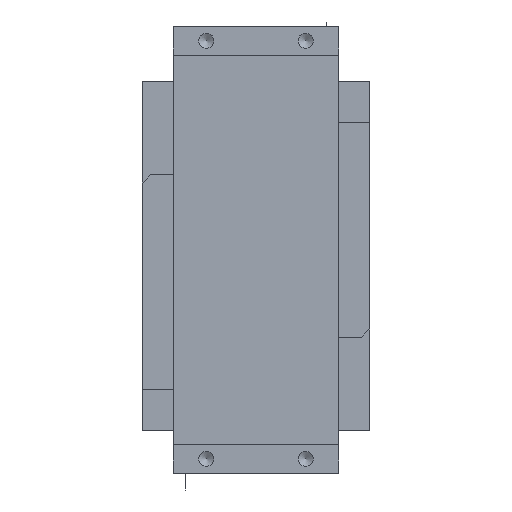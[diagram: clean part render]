
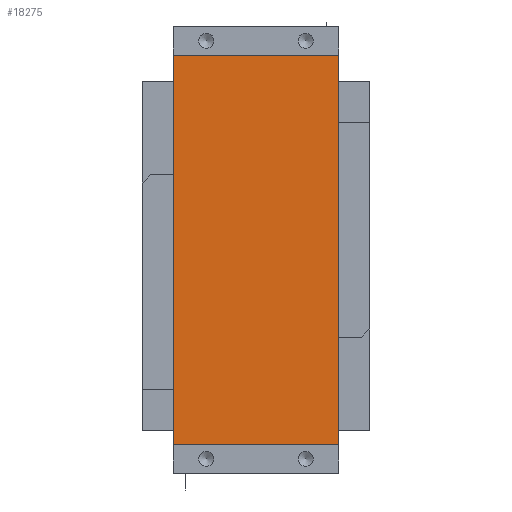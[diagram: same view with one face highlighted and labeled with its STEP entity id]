
A CAD part, front view. The second image highlights one B-rep face of the part: STEP entity #18275.
In plain terms, the highlighted planar face has unit normal (0, -1, 0) as drawn and (0, 1, 0) by its records, which use the part's own axes.
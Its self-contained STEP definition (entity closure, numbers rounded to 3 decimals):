
#5574=LINE('',#38445,#6968);
#5576=LINE('',#38449,#6970);
#5577=LINE('',#38451,#6971);
#5578=LINE('',#38452,#6972);
#6968=VECTOR('',#24342,10.);
#6970=VECTOR('',#24346,10.);
#6971=VECTOR('',#24347,10.);
#6972=VECTOR('',#24348,10.);
#7998=FACE_OUTER_BOUND('',#8818,.T.);
#8818=EDGE_LOOP('',(#17062,#17063,#17064,#17065));
#10940=VERTEX_POINT('',#38442);
#10941=VERTEX_POINT('',#38444);
#10942=VERTEX_POINT('',#38448);
#10943=VERTEX_POINT('',#38450);
#12988=EDGE_CURVE('',#10941,#10940,#5574,.T.);
#12990=EDGE_CURVE('',#10940,#10942,#5576,.T.);
#12991=EDGE_CURVE('',#10943,#10942,#5577,.T.);
#12992=EDGE_CURVE('',#10941,#10943,#5578,.T.);
#17062=ORIENTED_EDGE('',*,*,#12990,.T.);
#17063=ORIENTED_EDGE('',*,*,#12991,.F.);
#17064=ORIENTED_EDGE('',*,*,#12992,.F.);
#17065=ORIENTED_EDGE('',*,*,#12988,.T.);
#17535=PLANE('',#19928);
#18275=ADVANCED_FACE('',(#7998),#17535,.T.);
#19928=AXIS2_PLACEMENT_3D('',#38447,#24344,#24345);
#24342=DIRECTION('',(0.,0.,-1.));
#24344=DIRECTION('center_axis',(0.,1.,0.));
#24345=DIRECTION('ref_axis',(1.,0.,0.));
#24346=DIRECTION('',(-1.,0.,0.));
#24347=DIRECTION('',(0.,0.,-1.));
#24348=DIRECTION('',(-1.,0.,0.));
#38442=CARTESIAN_POINT('',(23.5,27.5,-20.));
#38444=CARTESIAN_POINT('',(23.5,27.5,0.));
#38445=CARTESIAN_POINT('',(23.5,27.5,0.));
#38447=CARTESIAN_POINT('Origin',(-23.5,27.5,0.));
#38448=CARTESIAN_POINT('',(-23.5,27.5,-20.));
#38449=CARTESIAN_POINT('',(-11.75,27.5,-20.));
#38450=CARTESIAN_POINT('',(-23.5,27.5,0.));
#38451=CARTESIAN_POINT('',(-23.5,27.5,0.));
#38452=CARTESIAN_POINT('',(23.5,27.5,0.));
